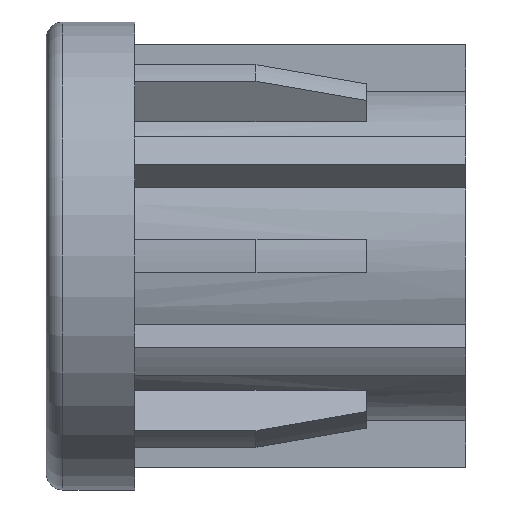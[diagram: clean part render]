
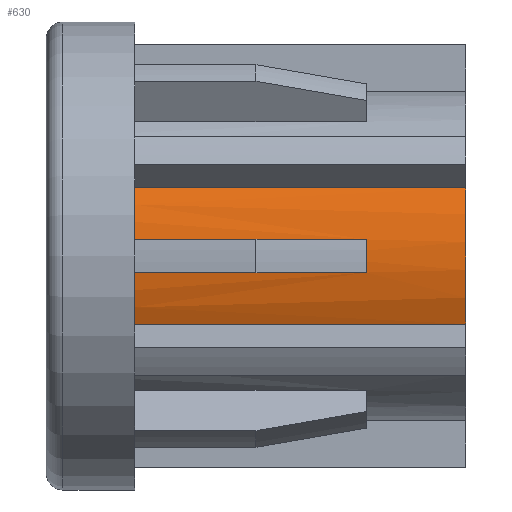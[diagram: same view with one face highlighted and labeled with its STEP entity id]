
A CAD part, left-side view. The second image highlights one B-rep face of the part: STEP entity #630.
In plain terms, the highlighted cylindrical face has radius 15 mm (diameter 30 mm), a partial arc.
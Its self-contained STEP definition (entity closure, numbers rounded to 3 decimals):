
#89 = EDGE_CURVE ( 'NONE', #1851, #2340, #300, .T. ) ;
#108 = FACE_OUTER_BOUND ( 'NONE', #190, .T. ) ;
#131 = CARTESIAN_POINT ( 'NONE',  ( -13.675, -38., -6.163 ) ) ;
#157 = DIRECTION ( 'NONE',  ( 0., 1., 0. ) ) ;
#190 = EDGE_LOOP ( 'NONE', ( #2393, #1511, #1457, #1953, #1077, #1499, #2431, #2152 ) ) ;
#300 = LINE ( 'NONE', #1044, #1768 ) ;
#308 = EDGE_CURVE ( 'NONE', #1602, #467, #1896, .T. ) ;
#339 = CYLINDRICAL_SURFACE ( 'NONE', #1325, 15. ) ;
#373 = DIRECTION ( 'NONE',  ( 0., -1., 0. ) ) ;
#449 = AXIS2_PLACEMENT_3D ( 'NONE', #1679, #1291, #2394 ) ;
#467 = VERTEX_POINT ( 'NONE', #2363 ) ;
#484 = DIRECTION ( 'NONE',  ( 0., 0., 1. ) ) ;
#493 = DIRECTION ( 'NONE',  ( 0., -1., 0. ) ) ;
#510 = LINE ( 'NONE', #1076, #1098 ) ;
#571 = CARTESIAN_POINT ( 'NONE',  ( -14.925, -29., 1.5 ) ) ;
#630 = ADVANCED_FACE ( 'NONE', ( #108 ), #339, .T. ) ;
#669 = AXIS2_PLACEMENT_3D ( 'NONE', #1002, #2174, #484 ) ;
#676 = CARTESIAN_POINT ( 'NONE',  ( 0., -29., 0. ) ) ;
#736 = VERTEX_POINT ( 'NONE', #2373 ) ;
#774 = DIRECTION ( 'NONE',  ( 0., -1., 0. ) ) ;
#875 = VERTEX_POINT ( 'NONE', #131 ) ;
#879 = AXIS2_PLACEMENT_3D ( 'NONE', #1525, #1163, #2296 ) ;
#913 = DIRECTION ( 'NONE',  ( 0., 0., -1. ) ) ;
#917 = EDGE_CURVE ( 'NONE', #2195, #875, #510, .T. ) ;
#1002 = CARTESIAN_POINT ( 'NONE',  ( 0., -8., 0. ) ) ;
#1044 = CARTESIAN_POINT ( 'NONE',  ( -14.925, 0.002, 1.5 ) ) ;
#1076 = CARTESIAN_POINT ( 'NONE',  ( -13.675, 0.002, -6.163 ) ) ;
#1077 = ORIENTED_EDGE ( 'NONE', *, *, #308, .F. ) ;
#1094 = VECTOR ( 'NONE', #2059, 1000. ) ;
#1098 = VECTOR ( 'NONE', #373, 1000. ) ;
#1163 = DIRECTION ( 'NONE',  ( 0., 1., 0. ) ) ;
#1186 = EDGE_CURVE ( 'NONE', #2218, #736, #1900, .T. ) ;
#1237 = DIRECTION ( 'NONE',  ( 0., 0., 1. ) ) ;
#1266 = EDGE_CURVE ( 'NONE', #1851, #1602, #1726, .T. ) ;
#1291 = DIRECTION ( 'NONE',  ( 0., 1., 0. ) ) ;
#1325 = AXIS2_PLACEMENT_3D ( 'NONE', #1843, #157, #1237 ) ;
#1358 = CARTESIAN_POINT ( 'NONE',  ( -14.925, -8., -1.5 ) ) ;
#1457 = ORIENTED_EDGE ( 'NONE', *, *, #917, .T. ) ;
#1499 = ORIENTED_EDGE ( 'NONE', *, *, #1266, .F. ) ;
#1511 = ORIENTED_EDGE ( 'NONE', *, *, #2350, .F. ) ;
#1525 = CARTESIAN_POINT ( 'NONE',  ( 0., -8., 0. ) ) ;
#1586 = CIRCLE ( 'NONE', #879, 15. ) ;
#1595 = CARTESIAN_POINT ( 'NONE',  ( -13.675, -8., -6.163 ) ) ;
#1602 = VERTEX_POINT ( 'NONE', #1802 ) ;
#1664 = CIRCLE ( 'NONE', #449, 15. ) ;
#1679 = CARTESIAN_POINT ( 'NONE',  ( 0., -38., 0. ) ) ;
#1713 = CARTESIAN_POINT ( 'NONE',  ( -14.925, 0.002, -1.5 ) ) ;
#1720 = CARTESIAN_POINT ( 'NONE',  ( -13.675, 0.002, 6.163 ) ) ;
#1726 = CIRCLE ( 'NONE', #669, 15. ) ;
#1768 = VECTOR ( 'NONE', #1799, 1000. ) ;
#1799 = DIRECTION ( 'NONE',  ( 0., -1., 0. ) ) ;
#1802 = CARTESIAN_POINT ( 'NONE',  ( -13.675, -8., 6.163 ) ) ;
#1843 = CARTESIAN_POINT ( 'NONE',  ( 0., 0., 0. ) ) ;
#1849 = VECTOR ( 'NONE', #774, 1000. ) ;
#1851 = VERTEX_POINT ( 'NONE', #2036 ) ;
#1896 = LINE ( 'NONE', #1720, #1094 ) ;
#1900 = LINE ( 'NONE', #1713, #1849 ) ;
#1953 = ORIENTED_EDGE ( 'NONE', *, *, #2231, .T. ) ;
#1984 = AXIS2_PLACEMENT_3D ( 'NONE', #676, #493, #913 ) ;
#2036 = CARTESIAN_POINT ( 'NONE',  ( -14.925, -8., 1.5 ) ) ;
#2059 = DIRECTION ( 'NONE',  ( 0., -1., 0. ) ) ;
#2066 = CIRCLE ( 'NONE', #1984, 15. ) ;
#2152 = ORIENTED_EDGE ( 'NONE', *, *, #2268, .T. ) ;
#2174 = DIRECTION ( 'NONE',  ( 0., 1., 0. ) ) ;
#2195 = VERTEX_POINT ( 'NONE', #1595 ) ;
#2218 = VERTEX_POINT ( 'NONE', #1358 ) ;
#2231 = EDGE_CURVE ( 'NONE', #875, #467, #1664, .T. ) ;
#2268 = EDGE_CURVE ( 'NONE', #2340, #736, #2066, .T. ) ;
#2296 = DIRECTION ( 'NONE',  ( 0., 0., 1. ) ) ;
#2340 = VERTEX_POINT ( 'NONE', #571 ) ;
#2350 = EDGE_CURVE ( 'NONE', #2195, #2218, #1586, .T. ) ;
#2363 = CARTESIAN_POINT ( 'NONE',  ( -13.675, -38., 6.163 ) ) ;
#2373 = CARTESIAN_POINT ( 'NONE',  ( -14.925, -29., -1.5 ) ) ;
#2393 = ORIENTED_EDGE ( 'NONE', *, *, #1186, .F. ) ;
#2394 = DIRECTION ( 'NONE',  ( 0., 0., 1. ) ) ;
#2431 = ORIENTED_EDGE ( 'NONE', *, *, #89, .T. ) ;
